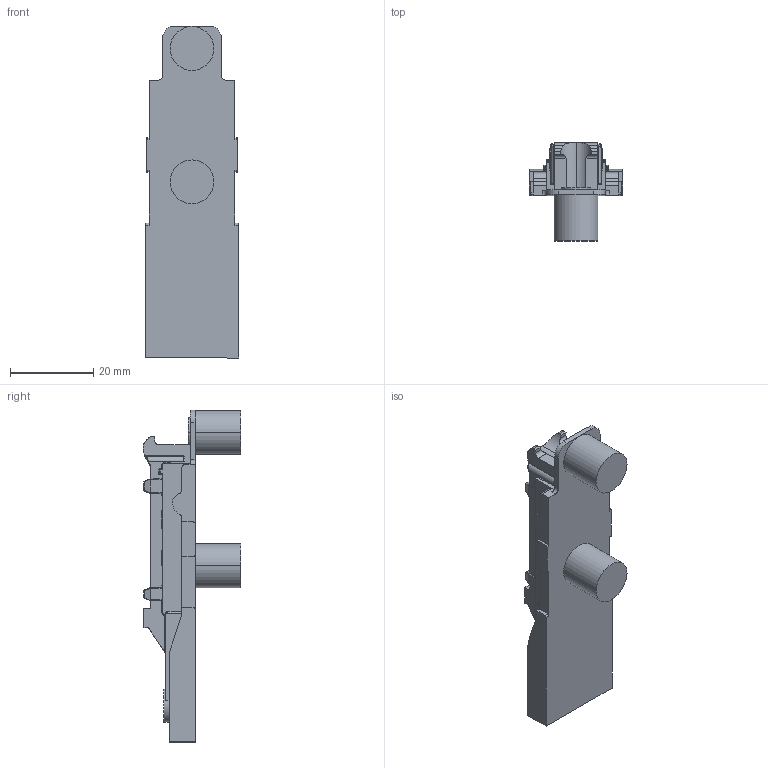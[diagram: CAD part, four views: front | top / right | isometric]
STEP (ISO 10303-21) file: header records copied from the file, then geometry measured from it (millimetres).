
FILE_DESCRIPTION (( 'STEP AP203' ), '1' );
FILE_NAME ('81H4MYQA.STEP', '2024-07-27T06:11:21', ( '微软用户' ), ( '微软中国' ), 'SwSTEP 2.0', 'SolidWorks 2021', '' );
FILE_SCHEMA (( 'CONFIG_CONTROL_DESIGN' ));
Length unit declared in the file: millimetre
Products named in the file (1): 81H4MYQA
Bounding box: 22.4 x 23.5 x 79.7 mm (x, y, z)
Volume: 13318.3 mm3; surface area: 6095.9 mm2
Topology: 1 solids, 1 shells, 507 faces, 1325 edges, 790 vertices
Faces by surface type: cylinder 200, plane 119, bspline 75, torus 72, sphere 41
Entity records: 17720 total; most frequent: CARTESIAN_POINT 5904, ORIENTED_EDGE 2580, DIRECTION 2369, EDGE_CURVE 1290, AXIS2_PLACEMENT_3D 895, VERTEX_POINT 790, LINE 579, VECTOR 579
